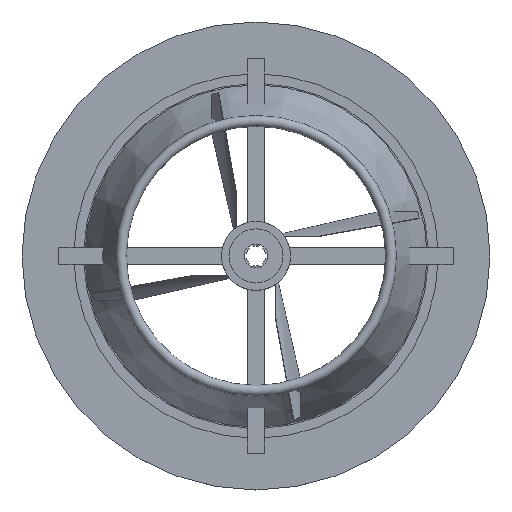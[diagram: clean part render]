
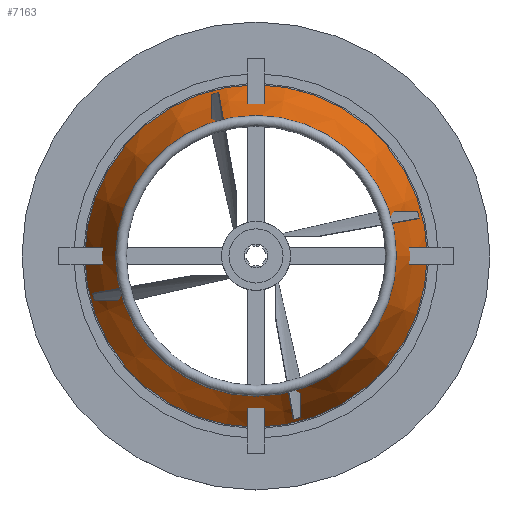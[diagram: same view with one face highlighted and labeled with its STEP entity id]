
A CAD part, top view. The second image highlights one B-rep face of the part: STEP entity #7163.
In plain terms, the highlighted conical face has half-angle 22.834 degrees and reference radius 72 mm.
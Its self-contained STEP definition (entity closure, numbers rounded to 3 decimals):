
#7163 = ADVANCED_FACE('',(#7164),#7177,.T.);
#7164 = FACE_BOUND('',#7165,.T.);
#7165 = EDGE_LOOP('',(#7166,#7200,#7223,#7250));
#7166 = ORIENTED_EDGE('',*,*,#7167,.F.);
#7167 = EDGE_CURVE('',#7168,#7168,#7170,.T.);
#7168 = VERTEX_POINT('',#7169);
#7169 = CARTESIAN_POINT('',(56.,0.,19.));
#7170 = SURFACE_CURVE('',#7171,(#7176,#7188),.PCURVE_S1.);
#7171 = CIRCLE('',#7172,56.);
#7172 = AXIS2_PLACEMENT_3D('',#7173,#7174,#7175);
#7173 = CARTESIAN_POINT('',(0.,0.,19.));
#7174 = DIRECTION('',(0.,0.,1.));
#7175 = DIRECTION('',(1.,0.,-0.));
#7176 = PCURVE('',#7177,#7182);
#7177 = CONICAL_SURFACE('',#7178,72.,0.399);
#7178 = AXIS2_PLACEMENT_3D('',#7179,#7180,#7181);
#7179 = CARTESIAN_POINT('',(0.,0.,-19.));
#7180 = DIRECTION('',(-0.,-0.,-1.));
#7181 = DIRECTION('',(1.,0.,-0.));
#7182 = DEFINITIONAL_REPRESENTATION('',(#7183),#7187);
#7183 = LINE('',#7184,#7185);
#7184 = CARTESIAN_POINT('',(-0.,-38.));
#7185 = VECTOR('',#7186,1.);
#7186 = DIRECTION('',(-1.,-0.));
#7187 = ( GEOMETRIC_REPRESENTATION_CONTEXT(2) 
PARAMETRIC_REPRESENTATION_CONTEXT() REPRESENTATION_CONTEXT('2D SPACE',''
  ) );
#7188 = PCURVE('',#7189,#7194);
#7189 = PLANE('',#7190);
#7190 = AXIS2_PLACEMENT_3D('',#7191,#7192,#7193);
#7191 = CARTESIAN_POINT('',(0.,0.,19.));
#7192 = DIRECTION('',(0.,0.,1.));
#7193 = DIRECTION('',(1.,0.,-0.));
#7194 = DEFINITIONAL_REPRESENTATION('',(#7195),#7199);
#7195 = CIRCLE('',#7196,56.);
#7196 = AXIS2_PLACEMENT_2D('',#7197,#7198);
#7197 = CARTESIAN_POINT('',(0.,0.));
#7198 = DIRECTION('',(1.,0.));
#7199 = ( GEOMETRIC_REPRESENTATION_CONTEXT(2) 
PARAMETRIC_REPRESENTATION_CONTEXT() REPRESENTATION_CONTEXT('2D SPACE',''
  ) );
#7200 = ORIENTED_EDGE('',*,*,#7201,.F.);
#7201 = EDGE_CURVE('',#7202,#7168,#7204,.T.);
#7202 = VERTEX_POINT('',#7203);
#7203 = CARTESIAN_POINT('',(72.,0.,-19.));
#7204 = SEAM_CURVE('',#7205,(#7209,#7216),.PCURVE_S1.);
#7205 = LINE('',#7206,#7207);
#7206 = CARTESIAN_POINT('',(72.,0.,-19.));
#7207 = VECTOR('',#7208,1.);
#7208 = DIRECTION('',(-0.388,0.,0.922)
  );
#7209 = PCURVE('',#7177,#7210);
#7210 = DEFINITIONAL_REPRESENTATION('',(#7211),#7215);
#7211 = LINE('',#7212,#7213);
#7212 = CARTESIAN_POINT('',(-6.283,0.));
#7213 = VECTOR('',#7214,1.);
#7214 = DIRECTION('',(-0.,-1.));
#7215 = ( GEOMETRIC_REPRESENTATION_CONTEXT(2) 
PARAMETRIC_REPRESENTATION_CONTEXT() REPRESENTATION_CONTEXT('2D SPACE',''
  ) );
#7216 = PCURVE('',#7177,#7217);
#7217 = DEFINITIONAL_REPRESENTATION('',(#7218),#7222);
#7218 = LINE('',#7219,#7220);
#7219 = CARTESIAN_POINT('',(0.,-0.));
#7220 = VECTOR('',#7221,1.);
#7221 = DIRECTION('',(-0.,-1.));
#7222 = ( GEOMETRIC_REPRESENTATION_CONTEXT(2) 
PARAMETRIC_REPRESENTATION_CONTEXT() REPRESENTATION_CONTEXT('2D SPACE',''
  ) );
#7223 = ORIENTED_EDGE('',*,*,#7224,.T.);
#7224 = EDGE_CURVE('',#7202,#7202,#7225,.T.);
#7225 = SURFACE_CURVE('',#7226,(#7231,#7238),.PCURVE_S1.);
#7226 = CIRCLE('',#7227,72.);
#7227 = AXIS2_PLACEMENT_3D('',#7228,#7229,#7230);
#7228 = CARTESIAN_POINT('',(0.,0.,-19.));
#7229 = DIRECTION('',(0.,0.,1.));
#7230 = DIRECTION('',(1.,0.,-0.));
#7231 = PCURVE('',#7177,#7232);
#7232 = DEFINITIONAL_REPRESENTATION('',(#7233),#7237);
#7233 = LINE('',#7234,#7235);
#7234 = CARTESIAN_POINT('',(-0.,-0.));
#7235 = VECTOR('',#7236,1.);
#7236 = DIRECTION('',(-1.,-0.));
#7237 = ( GEOMETRIC_REPRESENTATION_CONTEXT(2) 
PARAMETRIC_REPRESENTATION_CONTEXT() REPRESENTATION_CONTEXT('2D SPACE',''
  ) );
#7238 = PCURVE('',#7239,#7244);
#7239 = PLANE('',#7240);
#7240 = AXIS2_PLACEMENT_3D('',#7241,#7242,#7243);
#7241 = CARTESIAN_POINT('',(0.,0.,-19.));
#7242 = DIRECTION('',(0.,0.,1.));
#7243 = DIRECTION('',(1.,0.,-0.));
#7244 = DEFINITIONAL_REPRESENTATION('',(#7245),#7249);
#7245 = CIRCLE('',#7246,72.);
#7246 = AXIS2_PLACEMENT_2D('',#7247,#7248);
#7247 = CARTESIAN_POINT('',(0.,0.));
#7248 = DIRECTION('',(1.,0.));
#7249 = ( GEOMETRIC_REPRESENTATION_CONTEXT(2) 
PARAMETRIC_REPRESENTATION_CONTEXT() REPRESENTATION_CONTEXT('2D SPACE',''
  ) );
#7250 = ORIENTED_EDGE('',*,*,#7201,.T.);
